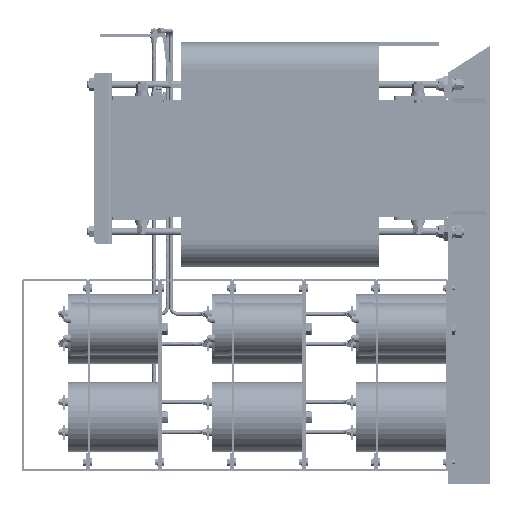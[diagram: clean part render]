
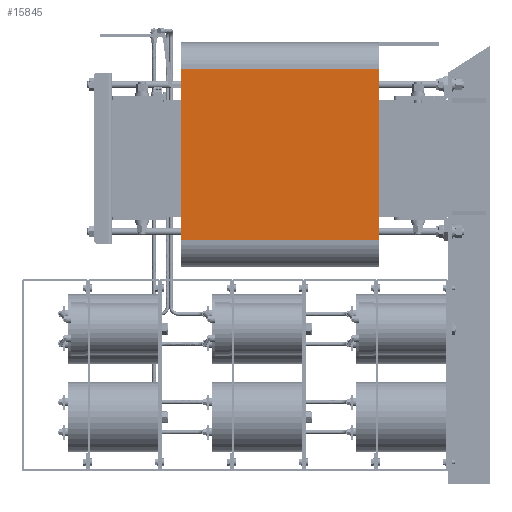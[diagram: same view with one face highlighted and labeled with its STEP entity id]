
A CAD part, left-side view. The second image highlights one B-rep face of the part: STEP entity #15845.
In plain terms, the highlighted planar face has unit normal (-1, 0, 0).
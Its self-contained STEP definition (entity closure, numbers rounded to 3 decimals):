
#15845=ADVANCED_FACE('',(#29906),#29908,.F.);
#29906=FACE_BOUND('',#29907,.T.);
#29907=EDGE_LOOP('',(#54754,#54755,#54756,#54757));
#29908=PLANE('',#29909);
#29909=AXIS2_PLACEMENT_3D('',#29910,#29911,#29912);
#29910=CARTESIAN_POINT('',(-102.5,181.5,165.));
#29911=DIRECTION('',(1.,0.,0.));
#29912=DIRECTION('',(0.,1.,0.));
#54754=ORIENTED_EDGE('',*,*,#62114,.T.);
#54755=ORIENTED_EDGE('',*,*,#62130,.T.);
#54756=ORIENTED_EDGE('',*,*,#62100,.F.);
#54757=ORIENTED_EDGE('',*,*,#62131,.T.);
#62100=EDGE_CURVE('',#66002,#66004,#66005,.T.);
#62114=EDGE_CURVE('',#66032,#66030,#66033,.T.);
#62130=EDGE_CURVE('',#66030,#66004,#66059,.T.);
#62131=EDGE_CURVE('',#66002,#66032,#66060,.T.);
#66002=VERTEX_POINT('',#72811);
#66004=VERTEX_POINT('',#72816);
#66005=LINE('',#72817,#72818);
#66030=VERTEX_POINT('',#72874);
#66032=VERTEX_POINT('',#72879);
#66033=LINE('',#72880,#72881);
#66059=LINE('',#72944,#72945);
#66060=LINE('',#72947,#72948);
#72811=CARTESIAN_POINT('',(-102.5,136.5,165.));
#72816=CARTESIAN_POINT('',(-102.5,-148.5,165.));
#72817=CARTESIAN_POINT('',(-102.5,136.5,165.));
#72818=VECTOR('',#72819,1.);
#72819=DIRECTION('',(0.,-1.,0.));
#72874=CARTESIAN_POINT('',(-102.5,-148.5,-165.));
#72879=CARTESIAN_POINT('',(-102.5,136.5,-165.));
#72880=CARTESIAN_POINT('',(-102.5,136.5,-165.));
#72881=VECTOR('',#72882,1.);
#72882=DIRECTION('',(0.,-1.,0.));
#72944=CARTESIAN_POINT('',(-102.5,-148.5,-165.));
#72945=VECTOR('',#72946,1.);
#72946=DIRECTION('',(0.,0.,1.));
#72947=CARTESIAN_POINT('',(-102.5,136.5,165.));
#72948=VECTOR('',#72949,1.);
#72949=DIRECTION('',(0.,0.,-1.));
